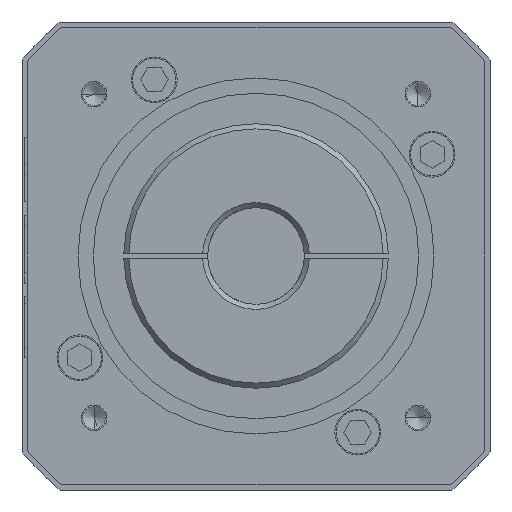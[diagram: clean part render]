
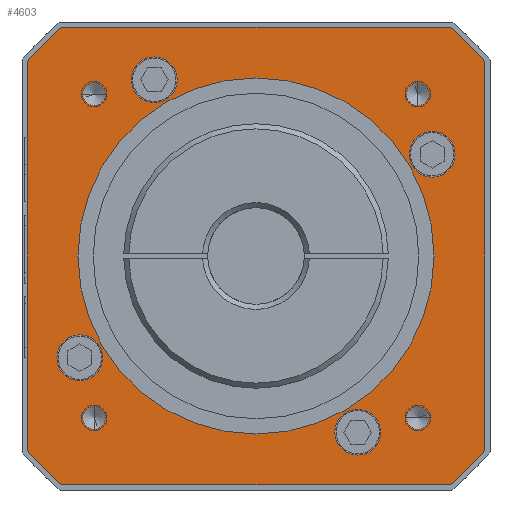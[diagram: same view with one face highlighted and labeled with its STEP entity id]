
A CAD part, left-side view. The second image highlights one B-rep face of the part: STEP entity #4603.
In plain terms, the highlighted planar face has unit normal (-1, 0, 0).
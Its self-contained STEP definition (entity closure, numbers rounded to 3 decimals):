
#900=CARTESIAN_POINT('',(-141.5,0.,0.));
#901=DIRECTION('',(-1.,0.,0.));
#902=DIRECTION('',(0.,0.763,-0.647));
#903=AXIS2_PLACEMENT_3D('',#900,#901,#902);
#905=DIRECTION('',(0.,0.,-1.));
#906=VECTOR('',#905,76.315);
#907=CARTESIAN_POINT('',(-141.5,45.,38.158));
#908=LINE('',#907,#906);
#909=CARTESIAN_POINT('',(-141.5,0.,0.));
#910=DIRECTION('',(-1.,0.,0.));
#911=DIRECTION('',(0.,0.647,0.763));
#912=AXIS2_PLACEMENT_3D('',#909,#910,#911);
#914=DIRECTION('',(0.,1.,0.));
#915=VECTOR('',#914,76.315);
#916=CARTESIAN_POINT('',(-141.5,-38.158,45.));
#917=LINE('',#916,#915);
#918=CARTESIAN_POINT('',(-141.5,0.,0.));
#919=DIRECTION('',(-1.,0.,0.));
#920=DIRECTION('',(0.,-0.763,0.647));
#921=AXIS2_PLACEMENT_3D('',#918,#919,#920);
#923=DIRECTION('',(0.,0.,1.));
#924=VECTOR('',#923,76.315);
#925=CARTESIAN_POINT('',(-141.5,-45.,-38.158));
#926=LINE('',#925,#924);
#927=CARTESIAN_POINT('',(-141.5,0.,0.));
#928=DIRECTION('',(-1.,0.,0.));
#929=DIRECTION('',(0.,-0.647,-0.763));
#930=AXIS2_PLACEMENT_3D('',#927,#928,#929);
#932=DIRECTION('',(0.,-1.,0.));
#933=VECTOR('',#932,76.315);
#934=CARTESIAN_POINT('',(-141.5,38.158,-45.));
#935=LINE('',#934,#933);
#936=CARTESIAN_POINT('',(-141.5,-31.82,-31.82));
#937=DIRECTION('',(-1.,0.,0.));
#938=DIRECTION('',(0.,1.,0.));
#939=AXIS2_PLACEMENT_3D('',#936,#937,#938);
#941=CARTESIAN_POINT('',(-141.5,-31.82,-31.82));
#942=DIRECTION('',(-1.,0.,0.));
#943=DIRECTION('',(0.,-1.,0.));
#944=AXIS2_PLACEMENT_3D('',#941,#942,#943);
#946=CARTESIAN_POINT('',(-141.5,-31.82,31.82));
#947=DIRECTION('',(-1.,0.,0.));
#948=DIRECTION('',(0.,0.,-1.));
#949=AXIS2_PLACEMENT_3D('',#946,#947,#948);
#951=CARTESIAN_POINT('',(-141.5,-31.82,31.82));
#952=DIRECTION('',(-1.,0.,0.));
#953=DIRECTION('',(0.,0.,1.));
#954=AXIS2_PLACEMENT_3D('',#951,#952,#953);
#956=CARTESIAN_POINT('',(-141.5,31.82,31.82));
#957=DIRECTION('',(-1.,0.,0.));
#958=DIRECTION('',(0.,-1.,0.));
#959=AXIS2_PLACEMENT_3D('',#956,#957,#958);
#961=CARTESIAN_POINT('',(-141.5,31.82,31.82));
#962=DIRECTION('',(-1.,0.,0.));
#963=DIRECTION('',(0.,1.,0.));
#964=AXIS2_PLACEMENT_3D('',#961,#962,#963);
#966=CARTESIAN_POINT('',(-141.5,31.82,-31.82));
#967=DIRECTION('',(-1.,0.,0.));
#968=DIRECTION('',(0.,0.,1.));
#969=AXIS2_PLACEMENT_3D('',#966,#967,#968);
#971=CARTESIAN_POINT('',(-141.5,31.82,-31.82));
#972=DIRECTION('',(-1.,0.,0.));
#973=DIRECTION('',(0.,0.,-1.));
#974=AXIS2_PLACEMENT_3D('',#971,#972,#973);
#976=CARTESIAN_POINT('',(-141.5,0.,0.));
#977=DIRECTION('',(-1.,0.,0.));
#978=DIRECTION('',(0.,1.,0.));
#979=AXIS2_PLACEMENT_3D('',#976,#977,#978);
#981=CARTESIAN_POINT('',(-141.5,0.,0.));
#982=DIRECTION('',(-1.,0.,0.));
#983=DIRECTION('',(0.,-1.,0.));
#984=AXIS2_PLACEMENT_3D('',#981,#982,#983);
#986=CARTESIAN_POINT('',(-141.5,-20.,-34.641));
#987=DIRECTION('',(-1.,0.,0.));
#988=DIRECTION('',(0.,1.,0.));
#989=AXIS2_PLACEMENT_3D('',#986,#987,#988);
#991=CARTESIAN_POINT('',(-141.5,-20.,-34.641));
#992=DIRECTION('',(-1.,0.,0.));
#993=DIRECTION('',(0.,-1.,0.));
#994=AXIS2_PLACEMENT_3D('',#991,#992,#993);
#996=CARTESIAN_POINT('',(-141.5,-34.641,20.));
#997=DIRECTION('',(-1.,0.,0.));
#998=DIRECTION('',(0.,0.,-1.));
#999=AXIS2_PLACEMENT_3D('',#996,#997,#998);
#1001=CARTESIAN_POINT('',(-141.5,-34.641,20.));
#1002=DIRECTION('',(-1.,0.,0.));
#1003=DIRECTION('',(0.,0.,1.));
#1004=AXIS2_PLACEMENT_3D('',#1001,#1002,#1003);
#1006=CARTESIAN_POINT('',(-141.5,20.,34.641));
#1007=DIRECTION('',(-1.,0.,0.));
#1008=DIRECTION('',(0.,-1.,0.));
#1009=AXIS2_PLACEMENT_3D('',#1006,#1007,#1008);
#1011=CARTESIAN_POINT('',(-141.5,20.,34.641));
#1012=DIRECTION('',(-1.,0.,0.));
#1013=DIRECTION('',(0.,1.,0.));
#1014=AXIS2_PLACEMENT_3D('',#1011,#1012,#1013);
#1016=CARTESIAN_POINT('',(-141.5,34.641,-20.));
#1017=DIRECTION('',(-1.,0.,0.));
#1018=DIRECTION('',(0.,0.,1.));
#1019=AXIS2_PLACEMENT_3D('',#1016,#1017,#1018);
#1021=CARTESIAN_POINT('',(-141.5,34.641,-20.));
#1022=DIRECTION('',(-1.,0.,0.));
#1023=DIRECTION('',(0.,0.,-1.));
#1024=AXIS2_PLACEMENT_3D('',#1021,#1022,#1023);
#3000=CARTESIAN_POINT('',(-141.5,45.,-38.158));
#3001=CARTESIAN_POINT('',(-141.5,38.158,-45.));
#3002=VERTEX_POINT('',#3000);
#3003=VERTEX_POINT('',#3001);
#3004=CARTESIAN_POINT('',(-141.5,-38.158,-45.));
#3005=CARTESIAN_POINT('',(-141.5,-45.,-38.158));
#3006=VERTEX_POINT('',#3004);
#3007=VERTEX_POINT('',#3005);
#3008=CARTESIAN_POINT('',(-141.5,-45.,38.158));
#3009=CARTESIAN_POINT('',(-141.5,-38.158,45.));
#3010=VERTEX_POINT('',#3008);
#3011=VERTEX_POINT('',#3009);
#3012=CARTESIAN_POINT('',(-141.5,38.158,45.));
#3013=CARTESIAN_POINT('',(-141.5,45.,38.158));
#3014=VERTEX_POINT('',#3012);
#3015=VERTEX_POINT('',#3013);
#3022=CARTESIAN_POINT('',(-141.5,-29.57,-31.82));
#3023=CARTESIAN_POINT('',(-141.5,-34.07,-31.82));
#3024=VERTEX_POINT('',#3022);
#3025=VERTEX_POINT('',#3023);
#3032=CARTESIAN_POINT('',(-141.5,-31.82,29.57));
#3033=CARTESIAN_POINT('',(-141.5,-31.82,34.07));
#3034=VERTEX_POINT('',#3032);
#3035=VERTEX_POINT('',#3033);
#3042=CARTESIAN_POINT('',(-141.5,29.57,31.82));
#3043=CARTESIAN_POINT('',(-141.5,34.07,31.82));
#3044=VERTEX_POINT('',#3042);
#3045=VERTEX_POINT('',#3043);
#3052=CARTESIAN_POINT('',(-141.5,31.82,-29.57));
#3053=CARTESIAN_POINT('',(-141.5,31.82,-34.07));
#3054=VERTEX_POINT('',#3052);
#3055=VERTEX_POINT('',#3053);
#3060=CARTESIAN_POINT('',(-141.5,35.,0.));
#3061=CARTESIAN_POINT('',(-141.5,-35.,0.));
#3062=VERTEX_POINT('',#3060);
#3063=VERTEX_POINT('',#3061);
#3068=CARTESIAN_POINT('',(-141.5,-15.5,-34.641));
#3069=CARTESIAN_POINT('',(-141.5,-24.5,-34.641));
#3070=VERTEX_POINT('',#3068);
#3071=VERTEX_POINT('',#3069);
#3108=CARTESIAN_POINT('',(-141.5,-34.641,15.5));
#3109=CARTESIAN_POINT('',(-141.5,-34.641,24.5));
#3110=VERTEX_POINT('',#3108);
#3111=VERTEX_POINT('',#3109);
#3116=CARTESIAN_POINT('',(-141.5,15.5,34.641));
#3117=CARTESIAN_POINT('',(-141.5,24.5,34.641));
#3118=VERTEX_POINT('',#3116);
#3119=VERTEX_POINT('',#3117);
#3124=CARTESIAN_POINT('',(-141.5,34.641,-15.5));
#3125=CARTESIAN_POINT('',(-141.5,34.641,-24.5));
#3126=VERTEX_POINT('',#3124);
#3127=VERTEX_POINT('',#3125);
#4532=CARTESIAN_POINT('',(-141.5,0.,0.));
#4533=DIRECTION('',(-1.,0.,0.));
#4534=DIRECTION('',(0.,-1.,0.));
#4535=AXIS2_PLACEMENT_3D('',#4532,#4533,#4534);
#4536=PLANE('',#4535);
#4537=ORIENTED_EDGE('',*,*,#4388,.F.);
#4538=ORIENTED_EDGE('',*,*,#4419,.F.);
#4539=ORIENTED_EDGE('',*,*,#4513,.F.);
#4541=ORIENTED_EDGE('',*,*,#4540,.F.);
#4542=ORIENTED_EDGE('',*,*,#4498,.F.);
#4543=ORIENTED_EDGE('',*,*,#4525,.F.);
#4544=ORIENTED_EDGE('',*,*,#4403,.F.);
#4546=ORIENTED_EDGE('',*,*,#4545,.F.);
#4547=EDGE_LOOP('',(#4537,#4538,#4539,#4541,#4542,#4543,#4544,#4546));
#4548=FACE_OUTER_BOUND('',#4547,.F.);
#4550=ORIENTED_EDGE('',*,*,#4549,.T.);
#4552=ORIENTED_EDGE('',*,*,#4551,.T.);
#4553=EDGE_LOOP('',(#4550,#4552));
#4554=FACE_BOUND('',#4553,.F.);
#4556=ORIENTED_EDGE('',*,*,#4555,.T.);
#4558=ORIENTED_EDGE('',*,*,#4557,.T.);
#4559=EDGE_LOOP('',(#4556,#4558));
#4560=FACE_BOUND('',#4559,.F.);
#4562=ORIENTED_EDGE('',*,*,#4561,.T.);
#4564=ORIENTED_EDGE('',*,*,#4563,.T.);
#4565=EDGE_LOOP('',(#4562,#4564));
#4566=FACE_BOUND('',#4565,.F.);
#4568=ORIENTED_EDGE('',*,*,#4567,.T.);
#4570=ORIENTED_EDGE('',*,*,#4569,.T.);
#4571=EDGE_LOOP('',(#4568,#4570));
#4572=FACE_BOUND('',#4571,.F.);
#4574=ORIENTED_EDGE('',*,*,#4573,.T.);
#4576=ORIENTED_EDGE('',*,*,#4575,.T.);
#4577=EDGE_LOOP('',(#4574,#4576));
#4578=FACE_BOUND('',#4577,.F.);
#4580=ORIENTED_EDGE('',*,*,#4579,.T.);
#4582=ORIENTED_EDGE('',*,*,#4581,.T.);
#4583=EDGE_LOOP('',(#4580,#4582));
#4584=FACE_BOUND('',#4583,.F.);
#4586=ORIENTED_EDGE('',*,*,#4585,.T.);
#4588=ORIENTED_EDGE('',*,*,#4587,.T.);
#4589=EDGE_LOOP('',(#4586,#4588));
#4590=FACE_BOUND('',#4589,.F.);
#4592=ORIENTED_EDGE('',*,*,#4591,.T.);
#4594=ORIENTED_EDGE('',*,*,#4593,.T.);
#4595=EDGE_LOOP('',(#4592,#4594));
#4596=FACE_BOUND('',#4595,.F.);
#4598=ORIENTED_EDGE('',*,*,#4597,.T.);
#4600=ORIENTED_EDGE('',*,*,#4599,.T.);
#4601=EDGE_LOOP('',(#4598,#4600));
#4602=FACE_BOUND('',#4601,.F.);
#4603=ADVANCED_FACE('',(#4548,#4554,#4560,#4566,#4572,#4578,#4584,#4590,#4596,
#4602),#4536,.T.);
#904=CIRCLE('',#903,59.);
#913=CIRCLE('',#912,59.);
#922=CIRCLE('',#921,59.);
#931=CIRCLE('',#930,59.);
#940=CIRCLE('',#939,2.25);
#945=CIRCLE('',#944,2.25);
#950=CIRCLE('',#949,2.25);
#955=CIRCLE('',#954,2.25);
#960=CIRCLE('',#959,2.25);
#965=CIRCLE('',#964,2.25);
#970=CIRCLE('',#969,2.25);
#975=CIRCLE('',#974,2.25);
#980=CIRCLE('',#979,35.);
#985=CIRCLE('',#984,35.);
#990=CIRCLE('',#989,4.5);
#995=CIRCLE('',#994,4.5);
#1000=CIRCLE('',#999,4.5);
#1005=CIRCLE('',#1004,4.5);
#1010=CIRCLE('',#1009,4.5);
#1015=CIRCLE('',#1014,4.5);
#1020=CIRCLE('',#1019,4.5);
#1025=CIRCLE('',#1024,4.5);
#4388=EDGE_CURVE('',#3002,#3003,#904,.T.);
#4403=EDGE_CURVE('',#3006,#3007,#931,.T.);
#4419=EDGE_CURVE('',#3015,#3002,#908,.T.);
#4498=EDGE_CURVE('',#3010,#3011,#922,.T.);
#4513=EDGE_CURVE('',#3014,#3015,#913,.T.);
#4525=EDGE_CURVE('',#3007,#3010,#926,.T.);
#4540=EDGE_CURVE('',#3011,#3014,#917,.T.);
#4545=EDGE_CURVE('',#3003,#3006,#935,.T.);
#4549=EDGE_CURVE('',#3024,#3025,#940,.T.);
#4551=EDGE_CURVE('',#3025,#3024,#945,.T.);
#4555=EDGE_CURVE('',#3034,#3035,#950,.T.);
#4557=EDGE_CURVE('',#3035,#3034,#955,.T.);
#4561=EDGE_CURVE('',#3044,#3045,#960,.T.);
#4563=EDGE_CURVE('',#3045,#3044,#965,.T.);
#4567=EDGE_CURVE('',#3054,#3055,#970,.T.);
#4569=EDGE_CURVE('',#3055,#3054,#975,.T.);
#4573=EDGE_CURVE('',#3062,#3063,#980,.T.);
#4575=EDGE_CURVE('',#3063,#3062,#985,.T.);
#4579=EDGE_CURVE('',#3070,#3071,#990,.T.);
#4581=EDGE_CURVE('',#3071,#3070,#995,.T.);
#4585=EDGE_CURVE('',#3110,#3111,#1000,.T.);
#4587=EDGE_CURVE('',#3111,#3110,#1005,.T.);
#4591=EDGE_CURVE('',#3118,#3119,#1010,.T.);
#4593=EDGE_CURVE('',#3119,#3118,#1015,.T.);
#4597=EDGE_CURVE('',#3126,#3127,#1020,.T.);
#4599=EDGE_CURVE('',#3127,#3126,#1025,.T.);
